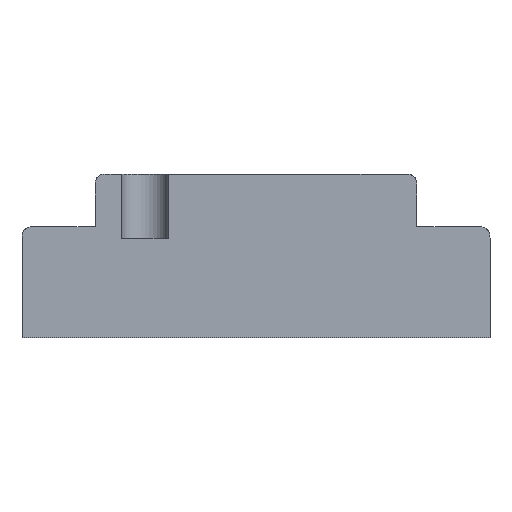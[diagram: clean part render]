
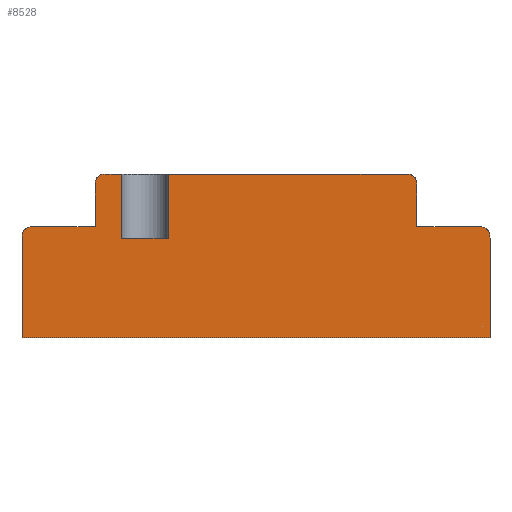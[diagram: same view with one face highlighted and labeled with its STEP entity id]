
A CAD part, front view. The second image highlights one B-rep face of the part: STEP entity #8528.
In plain terms, the highlighted planar face has unit normal (0, -1, 0).
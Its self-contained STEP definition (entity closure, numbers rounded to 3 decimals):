
#8137=CARTESIAN_POINT('',(-15.,-24.,17.0));
#8138=VERTEX_POINT('',#8137);
#8147=CARTESIAN_POINT('',(-15.,-24.,28.0));
#8148=VERTEX_POINT('',#8147);
#8149=CARTESIAN_POINT('',(-15.,-24.,28.0));
#8150=DIRECTION('',(0.0,0.0,-1.0));
#8151=VECTOR('',#8150,11.0);
#8152=LINE('',#8149,#8151);
#8153=EDGE_CURVE('',#8148,#8138,#8152,.T.);
#8210=CARTESIAN_POINT('',(-23.,-24.,17.0));
#8211=VERTEX_POINT('',#8210);
#8219=CARTESIAN_POINT('',(-23.,-24.,28.0));
#8220=VERTEX_POINT('',#8219);
#8227=CARTESIAN_POINT('',(-23.,-24.,17.0));
#8228=DIRECTION('',(0.0,0.0,1.0));
#8229=VECTOR('',#8228,11.0);
#8230=LINE('',#8227,#8229);
#8231=EDGE_CURVE('',#8211,#8220,#8230,.T.);
#8244=CARTESIAN_POINT('',(-15.,-24.,17.0));
#8245=DIRECTION('',(-1.0,0.0,0.0));
#8246=VECTOR('',#8245,8.);
#8247=LINE('',#8244,#8246);
#8248=EDGE_CURVE('',#8138,#8211,#8247,.T.);
#8380=CARTESIAN_POINT('',(40.0,-24.,0.0));
#8381=DIRECTION('',(0.0,-1.0,0.0));
#8382=DIRECTION('',(0.0,0.0,-1.0));
#8383=AXIS2_PLACEMENT_3D('',#8380,#8381,#8382);
#8384=PLANE('',#8383);
#8385=ORIENTED_EDGE('',*,*,#8153,.T.);
#8386=ORIENTED_EDGE('',*,*,#8248,.T.);
#8387=ORIENTED_EDGE('',*,*,#8231,.T.);
#8388=CARTESIAN_POINT('',(-25.5,-24.,28.));
#8389=VERTEX_POINT('',#8388);
#8390=CARTESIAN_POINT('',(-23.,-24.,28.));
#8391=DIRECTION('',(-1.0,0.0,0.0));
#8392=VECTOR('',#8391,2.5);
#8393=LINE('',#8390,#8392);
#8394=EDGE_CURVE('',#8220,#8389,#8393,.T.);
#8395=ORIENTED_EDGE('',*,*,#8394,.T.);
#8396=CARTESIAN_POINT('',(-27.5,-24.,26.));
#8397=VERTEX_POINT('',#8396);
#8398=CARTESIAN_POINT('',(-27.5,-24.,26.));
#8399=CARTESIAN_POINT('',(-27.5,-24.,26.278));
#8400=CARTESIAN_POINT('',(-27.5,-24.,26.589));
#8401=CARTESIAN_POINT('',(-27.319,-24.,27.145));
#8402=CARTESIAN_POINT('',(-27.206,-24.,27.317));
#8403=CARTESIAN_POINT('',(-26.975,-24.,27.587));
#8404=CARTESIAN_POINT('',(-26.823,-24.,27.705));
#8405=CARTESIAN_POINT('',(-26.449,-24.,27.899));
#8406=CARTESIAN_POINT('',(-26.248,-24.,27.947));
#8407=CARTESIAN_POINT('',(-25.88,-24.,28.0));
#8408=CARTESIAN_POINT('',(-25.687,-24.,28.0));
#8409=CARTESIAN_POINT('',(-25.5,-24.,28.0));
#8410=B_SPLINE_CURVE_WITH_KNOTS('',3,(#8398,#8399,#8400,#8401,#8402,#8403,#8404,#8405,#8406,#8407,#8408,#8409),.UNSPECIFIED.,.F.,.U.,(4,2,2,2,2,4),(0.0,0.083,0.146,0.22,0.307,0.412),.UNSPECIFIED.);
#8411=EDGE_CURVE('',#8397,#8389,#8410,.T.);
#8412=ORIENTED_EDGE('',*,*,#8411,.F.);
#8413=CARTESIAN_POINT('',(-27.5,-24.,19.0));
#8414=VERTEX_POINT('',#8413);
#8415=CARTESIAN_POINT('',(-27.5,-24.,19.0));
#8416=DIRECTION('',(0.0,0.0,1.0));
#8417=VECTOR('',#8416,7.);
#8418=LINE('',#8415,#8417);
#8419=EDGE_CURVE('',#8414,#8397,#8418,.T.);
#8420=ORIENTED_EDGE('',*,*,#8419,.F.);
#8421=CARTESIAN_POINT('',(-38.0,-24.,19.0));
#8422=VERTEX_POINT('',#8421);
#8423=CARTESIAN_POINT('',(-27.5,-24.,19.0));
#8424=DIRECTION('',(-1.0,0.0,0.0));
#8425=VECTOR('',#8424,10.5);
#8426=LINE('',#8423,#8425);
#8427=EDGE_CURVE('',#8414,#8422,#8426,.T.);
#8428=ORIENTED_EDGE('',*,*,#8427,.T.);
#8429=CARTESIAN_POINT('',(-40.0,-24.,17.0));
#8430=VERTEX_POINT('',#8429);
#8431=CARTESIAN_POINT('',(-40.0,-24.,17.0));
#8432=CARTESIAN_POINT('',(-40.0,-24.,17.278));
#8433=CARTESIAN_POINT('',(-40.0,-24.,17.589));
#8434=CARTESIAN_POINT('',(-39.819,-24.,18.145));
#8435=CARTESIAN_POINT('',(-39.706,-24.,18.317));
#8436=CARTESIAN_POINT('',(-39.475,-24.,18.587));
#8437=CARTESIAN_POINT('',(-39.323,-24.,18.705));
#8438=CARTESIAN_POINT('',(-38.949,-24.,18.899));
#8439=CARTESIAN_POINT('',(-38.748,-24.,18.947));
#8440=CARTESIAN_POINT('',(-38.38,-24.,19.0));
#8441=CARTESIAN_POINT('',(-38.187,-24.,19.0));
#8442=CARTESIAN_POINT('',(-38.0,-24.,19.0));
#8443=B_SPLINE_CURVE_WITH_KNOTS('',3,(#8431,#8432,#8433,#8434,#8435,#8436,#8437,#8438,#8439,#8440,#8441,#8442),.UNSPECIFIED.,.F.,.U.,(4,2,2,2,2,4),(0.0,0.083,0.146,0.22,0.307,0.412),.UNSPECIFIED.);
#8444=EDGE_CURVE('',#8430,#8422,#8443,.T.);
#8445=ORIENTED_EDGE('',*,*,#8444,.F.);
#8446=CARTESIAN_POINT('',(-40.0,-24.,0.0));
#8447=VERTEX_POINT('',#8446);
#8448=CARTESIAN_POINT('',(-40.0,-24.,0.0));
#8449=DIRECTION('',(0.0,0.0,1.0));
#8450=VECTOR('',#8449,17.0);
#8451=LINE('',#8448,#8450);
#8452=EDGE_CURVE('',#8447,#8430,#8451,.T.);
#8453=ORIENTED_EDGE('',*,*,#8452,.F.);
#8454=CARTESIAN_POINT('',(40.0,-24.,0.0));
#8455=VERTEX_POINT('',#8454);
#8456=CARTESIAN_POINT('',(40.0,-24.,0.0));
#8457=DIRECTION('',(-1.0,0.0,0.0));
#8458=VECTOR('',#8457,80.0);
#8459=LINE('',#8456,#8458);
#8460=EDGE_CURVE('',#8455,#8447,#8459,.T.);
#8461=ORIENTED_EDGE('',*,*,#8460,.F.);
#8462=CARTESIAN_POINT('',(40.0,-24.,17.0));
#8463=VERTEX_POINT('',#8462);
#8464=CARTESIAN_POINT('',(40.0,-24.,0.0));
#8465=DIRECTION('',(0.0,0.0,1.0));
#8466=VECTOR('',#8465,17.0);
#8467=LINE('',#8464,#8466);
#8468=EDGE_CURVE('',#8455,#8463,#8467,.T.);
#8469=ORIENTED_EDGE('',*,*,#8468,.T.);
#8470=CARTESIAN_POINT('',(38.0,-24.,19.0));
#8471=VERTEX_POINT('',#8470);
#8472=CARTESIAN_POINT('',(38.0,-24.,19.));
#8473=CARTESIAN_POINT('',(38.251,-24.,19.));
#8474=CARTESIAN_POINT('',(38.523,-24.0,19.0));
#8475=CARTESIAN_POINT('',(39.065,-24.0,18.858));
#8476=CARTESIAN_POINT('',(39.245,-24.0,18.751));
#8477=CARTESIAN_POINT('',(39.525,-24.0,18.54));
#8478=CARTESIAN_POINT('',(39.653,-24.0,18.395));
#8479=CARTESIAN_POINT('',(39.869,-24.0,18.03));
#8480=CARTESIAN_POINT('',(39.925,-24.0,17.834));
#8481=CARTESIAN_POINT('',(40.0,-24.0,17.441));
#8482=CARTESIAN_POINT('',(40.0,-24.,17.215));
#8483=CARTESIAN_POINT('',(40.0,-24.,17.0));
#8484=B_SPLINE_CURVE_WITH_KNOTS('',3,(#8472,#8473,#8474,#8475,#8476,#8477,#8478,#8479,#8480,#8481,#8482,#8483),.UNSPECIFIED.,.F.,.U.,(4,2,2,2,2,4),(0.0,0.075,0.145,0.232,0.334,0.487),.UNSPECIFIED.);
#8485=EDGE_CURVE('',#8471,#8463,#8484,.T.);
#8486=ORIENTED_EDGE('',*,*,#8485,.F.);
#8487=CARTESIAN_POINT('',(27.5,-24.,19.0));
#8488=VERTEX_POINT('',#8487);
#8489=CARTESIAN_POINT('',(38.0,-24.,19.0));
#8490=DIRECTION('',(-1.0,0.0,0.0));
#8491=VECTOR('',#8490,10.5);
#8492=LINE('',#8489,#8491);
#8493=EDGE_CURVE('',#8471,#8488,#8492,.T.);
#8494=ORIENTED_EDGE('',*,*,#8493,.T.);
#8495=CARTESIAN_POINT('',(27.5,-24.,26.));
#8496=VERTEX_POINT('',#8495);
#8497=CARTESIAN_POINT('',(27.5,-24.,19.0));
#8498=DIRECTION('',(0.0,0.0,1.0));
#8499=VECTOR('',#8498,7.);
#8500=LINE('',#8497,#8499);
#8501=EDGE_CURVE('',#8488,#8496,#8500,.T.);
#8502=ORIENTED_EDGE('',*,*,#8501,.T.);
#8503=CARTESIAN_POINT('',(25.5,-24.,28.));
#8504=VERTEX_POINT('',#8503);
#8505=CARTESIAN_POINT('',(25.5,-24.,28.));
#8506=CARTESIAN_POINT('',(25.751,-24.,28.));
#8507=CARTESIAN_POINT('',(26.023,-24.0,28.0));
#8508=CARTESIAN_POINT('',(26.565,-24.0,27.858));
#8509=CARTESIAN_POINT('',(26.745,-24.0,27.751));
#8510=CARTESIAN_POINT('',(27.025,-24.0,27.54));
#8511=CARTESIAN_POINT('',(27.153,-24.0,27.395));
#8512=CARTESIAN_POINT('',(27.369,-24.0,27.03));
#8513=CARTESIAN_POINT('',(27.425,-24.0,26.834));
#8514=CARTESIAN_POINT('',(27.5,-24.0,26.441));
#8515=CARTESIAN_POINT('',(27.5,-24.,26.215));
#8516=CARTESIAN_POINT('',(27.5,-24.,26.0));
#8517=B_SPLINE_CURVE_WITH_KNOTS('',3,(#8505,#8506,#8507,#8508,#8509,#8510,#8511,#8512,#8513,#8514,#8515,#8516),.UNSPECIFIED.,.F.,.U.,(4,2,2,2,2,4),(0.0,0.075,0.145,0.232,0.334,0.487),.UNSPECIFIED.);
#8518=EDGE_CURVE('',#8504,#8496,#8517,.T.);
#8519=ORIENTED_EDGE('',*,*,#8518,.F.);
#8520=CARTESIAN_POINT('',(25.5,-24.,28.));
#8521=DIRECTION('',(-1.0,0.0,0.0));
#8522=VECTOR('',#8521,40.5);
#8523=LINE('',#8520,#8522);
#8524=EDGE_CURVE('',#8504,#8148,#8523,.T.);
#8525=ORIENTED_EDGE('',*,*,#8524,.T.);
#8526=EDGE_LOOP('',(#8385,#8386,#8387,#8395,#8412,#8420,#8428,#8445,#8453,#8461,#8469,#8486,#8494,#8502,#8519,#8525));
#8527=FACE_OUTER_BOUND('',#8526,.T.);
#8528=ADVANCED_FACE('',(#8527),#8384,.T.);
